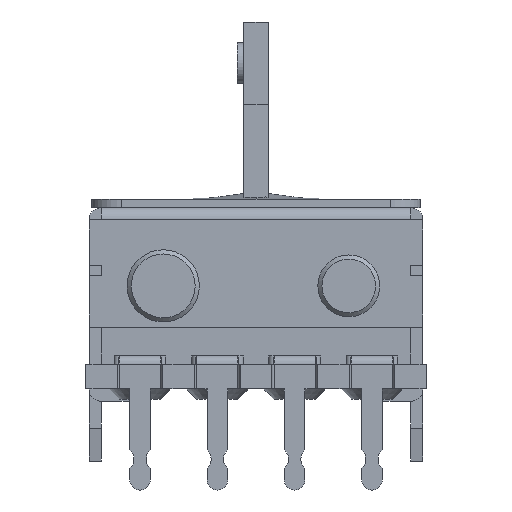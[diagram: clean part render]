
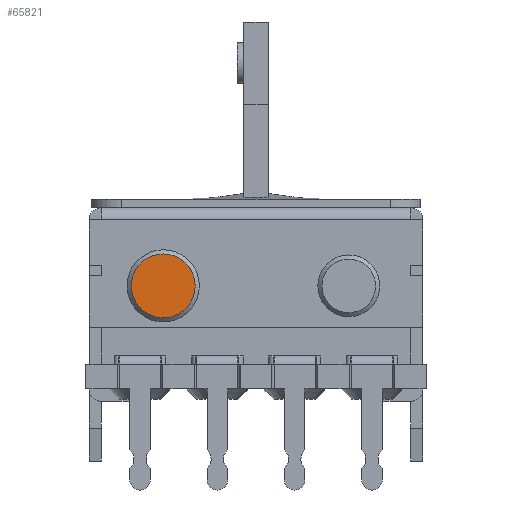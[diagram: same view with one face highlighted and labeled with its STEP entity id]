
A CAD part, left-side view. The second image highlights one B-rep face of the part: STEP entity #65821.
In plain terms, the highlighted planar face has unit normal (-1, 0, 0).
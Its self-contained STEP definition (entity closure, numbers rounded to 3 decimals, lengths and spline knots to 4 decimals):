
#65662 = VERTEX_POINT('',#65663);
#65663 = CARTESIAN_POINT('',(-64.,4.5,-2.65));
#65670 = CONICAL_SURFACE('',#65671,1.75,0.785);
#65671 = AXIS2_PLACEMENT_3D('',#65672,#65673,#65674);
#65672 = CARTESIAN_POINT('',(-63.8,4.5,-4.2));
#65673 = DIRECTION('',(1.,-0.,0.));
#65674 = DIRECTION('',(0.,0.,1.));
#65689 = EDGE_CURVE('',#65662,#65662,#65690,.T.);
#65690 = SURFACE_CURVE('',#65691,(#65696,#65703),.PCURVE_S1.);
#65691 = CIRCLE('',#65692,1.55);
#65692 = AXIS2_PLACEMENT_3D('',#65693,#65694,#65695);
#65693 = CARTESIAN_POINT('',(-64.,4.5,-4.2));
#65694 = DIRECTION('',(-1.,0.,0.));
#65695 = DIRECTION('',(0.,0.,1.));
#65696 = PCURVE('',#65670,#65697);
#65697 = DEFINITIONAL_REPRESENTATION('',(#65698),#65702);
#65698 = LINE('',#65699,#65700);
#65699 = CARTESIAN_POINT('',(-0.,-0.2));
#65700 = VECTOR('',#65701,1.);
#65701 = DIRECTION('',(-1.,-0.));
#65702 = ( GEOMETRIC_REPRESENTATION_CONTEXT(2) 
PARAMETRIC_REPRESENTATION_CONTEXT() REPRESENTATION_CONTEXT('2D SPACE',''
  ) );
#65703 = PCURVE('',#65704,#65709);
#65704 = PLANE('',#65705);
#65705 = AXIS2_PLACEMENT_3D('',#65706,#65707,#65708);
#65706 = CARTESIAN_POINT('',(-64.,4.5,-4.2));
#65707 = DIRECTION('',(-1.,0.,0.));
#65708 = DIRECTION('',(0.,0.,1.));
#65709 = DEFINITIONAL_REPRESENTATION('',(#65710),#65714);
#65710 = CIRCLE('',#65711,1.55);
#65711 = AXIS2_PLACEMENT_2D('',#65712,#65713);
#65712 = CARTESIAN_POINT('',(0.,0.));
#65713 = DIRECTION('',(1.,0.));
#65714 = ( GEOMETRIC_REPRESENTATION_CONTEXT(2) 
PARAMETRIC_REPRESENTATION_CONTEXT() REPRESENTATION_CONTEXT('2D SPACE',''
  ) );
#65821 = ADVANCED_FACE('',(#65822),#65704,.T.);
#65822 = FACE_BOUND('',#65823,.T.);
#65823 = EDGE_LOOP('',(#65824));
#65824 = ORIENTED_EDGE('',*,*,#65689,.T.);
